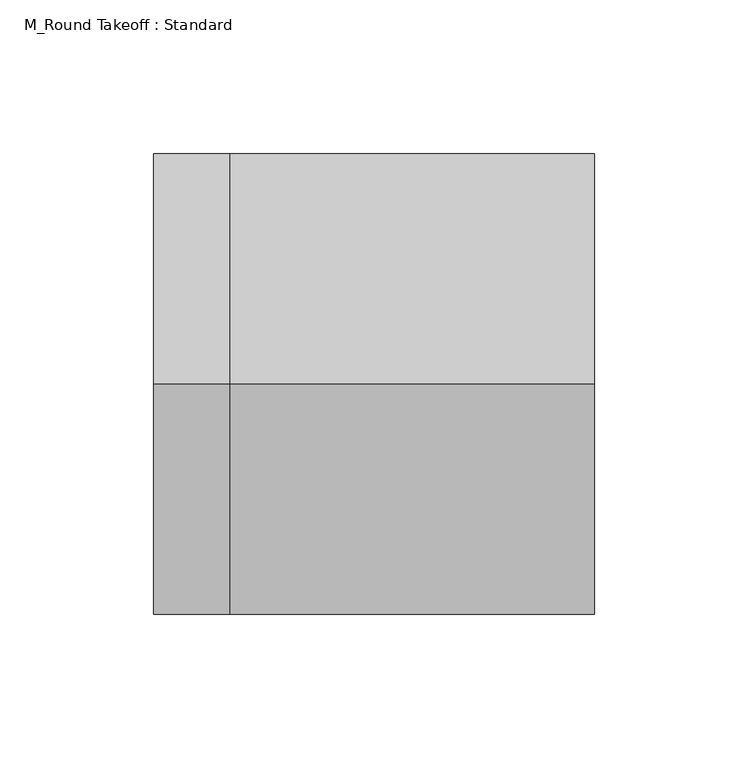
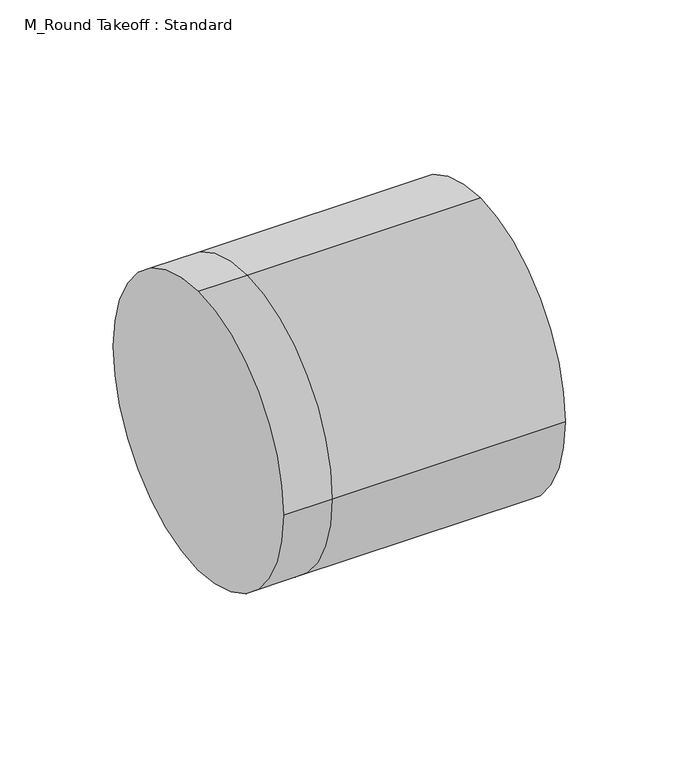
"""IFC4 building model written with IfcOpenShell, lengths in millimetres: duct fitting geometry, M_Round Takeoff : Standard."""

from ifc_helpers import new_model, si_unit, frame, origin, place, context, project, spatial, circle_curve, source, transform, mapped, element, save
from ifc_brep_helpers import plane_surface, cylinder_surface, advanced_brep


def m_round_takeoff_standard_242be8e9(model_context):
    return source(origin(), model_context, "Body", "AdvancedBrep", [
        advanced_brep(
        [(-24.8402143, 0.0, 75.0), (-24.8402143, 75.0, 0.0), (-24.8402143, 0.0, -75.0), (-24.8402143, -75.0, 0.0), (0.0, 0.0, 75.0), (0.0, 75.0, 0.0), (0.0, 0.0, -75.0), (0.0, -75.0, 0.0), (118.7442143, 0.0, 75.0), (118.7442143, -75.0, 0.0), (118.7442143, 0.0, -75.0), (118.7442143, 75.0, 0.0)],
        [
            (0, 1, circle_curve(frame((-24.8402143, 0.0, 0.0), z_axis=(-1.0, 0.0, 0.0), x_axis=(0.0, 1.0, 0.0)), 75.0)),
            (1, 2, circle_curve(frame((-24.8402143, 0.0, 0.0), z_axis=(-1.0, 0.0, 0.0), x_axis=(0.0, 1.0, 0.0)), 75.0)),
            (2, 3, circle_curve(frame((-24.8402143, 0.0, 0.0), z_axis=(-1.0, 0.0, 0.0), x_axis=(0.0, 1.0, 0.0)), 75.0)),
            (3, 0, circle_curve(frame((-24.8402143, 0.0, 0.0), z_axis=(-1.0, 0.0, 0.0), x_axis=(0.0, 1.0, 0.0)), 75.0)),
            (0, 4),
            (4, 5, circle_curve(frame((0.0, 0.0, 0.0), z_axis=(-1.0, 0.0, 0.0), x_axis=(0.0, 1.0, 0.0)), 75.0)),
            (5, 1),
            (5, 6, circle_curve(frame((0.0, 0.0, 0.0), z_axis=(-1.0, 0.0, 0.0), x_axis=(0.0, 1.0, 0.0)), 75.0)),
            (6, 2),
            (6, 7, circle_curve(frame((0.0, 0.0, 0.0), z_axis=(-1.0, 0.0, 0.0), x_axis=(0.0, 1.0, 0.0)), 75.0)),
            (7, 3),
            (7, 4, circle_curve(frame((0.0, 0.0, 0.0), z_axis=(-1.0, 0.0, 0.0), x_axis=(0.0, 1.0, 0.0)), 75.0)),
            (8, 9, circle_curve(frame((118.7442143, 0.0, 0.0), z_axis=(1.0, 0.0, 0.0), x_axis=(0.0, 1.0, 0.0)), 75.0)),
            (9, 10, circle_curve(frame((118.7442143, 0.0, 0.0), z_axis=(1.0, 0.0, 0.0), x_axis=(0.0, 1.0, 0.0)), 75.0)),
            (10, 11, circle_curve(frame((118.7442143, 0.0, 0.0), z_axis=(1.0, 0.0, 0.0), x_axis=(0.0, 1.0, 0.0)), 75.0)),
            (11, 8, circle_curve(frame((118.7442143, 0.0, 0.0), z_axis=(1.0, 0.0, 0.0), x_axis=(0.0, 1.0, 0.0)), 75.0)),
            (11, 5),
            (4, 8),
            (10, 6),
            (9, 7),
        ],
        [
            plane_surface(frame((-24.8402143, 0.0, 0.0), z_axis=(-1.0, 0.0, 0.0), x_axis=(0.0, 0.0, 1.0))),
            cylinder_surface(frame((-24.8402143, 0.0, 0.0), z_axis=(-1.0, 0.0, 0.0), x_axis=(0.0, 1.0, 0.0)), 75.0),
            plane_surface(frame((118.7442143, 0.0, 0.0), z_axis=(1.0, 0.0, 0.0), x_axis=(0.0, 0.0, 1.0))),
            cylinder_surface(frame((0.0, 0.0, 0.0), z_axis=(-1.0, 0.0, 0.0), x_axis=(0.0, 1.0, 0.0)), 75.0),
        ],
        [
            (0, [[1, 2, 3, 4]]),
            (1, [[-1, 5, 6, 7]]),
            (1, [[-2, -7, 8, 9]]),
            (1, [[-3, -9, 10, 11]]),
            (1, [[-4, -11, 12, -5]]),
            (2, [[13, 14, 15, 16]]),
            (3, [[-16, 17, -6, 18]]),
            (3, [[-15, 19, -8, -17]]),
            (3, [[-14, 20, -10, -19]]),
            (3, [[-13, -18, -12, -20]]),
        ],
    ),
        advanced_brep(
        [(118.7442143, 0.0, 75.0), (118.7442143, -75.0, 0.0), (118.7442143, 0.0, -75.0), (118.7442143, 75.0, 0.0), (0.0, 75.0, 0.0), (0.0, 0.0, 75.0), (0.0, 0.0, -75.0), (0.0, -75.0, 0.0), (-24.8402143, 0.0, 75.0), (-24.8402143, 75.0, 0.0), (-24.8402143, 0.0, -75.0), (-24.8402143, -75.0, 0.0)],
        [
            (0, 1, circle_curve(frame((118.7442143, 0.0, 0.0), z_axis=(1.0, 0.0, 0.0), x_axis=(0.0, 1.0, 0.0)), 75.0)),
            (1, 2, circle_curve(frame((118.7442143, 0.0, 0.0), z_axis=(1.0, 0.0, 0.0), x_axis=(0.0, 1.0, 0.0)), 75.0)),
            (2, 3, circle_curve(frame((118.7442143, 0.0, 0.0), z_axis=(1.0, 0.0, 0.0), x_axis=(0.0, 1.0, 0.0)), 75.0)),
            (3, 0, circle_curve(frame((118.7442143, 0.0, 0.0), z_axis=(1.0, 0.0, 0.0), x_axis=(0.0, 1.0, 0.0)), 75.0)),
            (3, 4),
            (4, 5, circle_curve(frame((0.0, 0.0, 0.0), z_axis=(1.0, 0.0, 0.0), x_axis=(0.0, 1.0, 0.0)), 75.0)),
            (5, 0),
            (2, 6),
            (6, 4, circle_curve(frame((0.0, 0.0, 0.0), z_axis=(1.0, 0.0, 0.0), x_axis=(0.0, 1.0, 0.0)), 75.0)),
            (1, 7),
            (7, 6, circle_curve(frame((0.0, 0.0, 0.0), z_axis=(1.0, 0.0, 0.0), x_axis=(0.0, 1.0, 0.0)), 75.0)),
            (5, 7, circle_curve(frame((0.0, 0.0, 0.0), z_axis=(1.0, 0.0, 0.0), x_axis=(0.0, 1.0, 0.0)), 75.0)),
            (8, 9, circle_curve(frame((-24.8402143, 0.0, 0.0), z_axis=(-1.0, 0.0, 0.0), x_axis=(0.0, 1.0, 0.0)), 75.0)),
            (9, 10, circle_curve(frame((-24.8402143, 0.0, 0.0), z_axis=(-1.0, 0.0, 0.0), x_axis=(0.0, 1.0, 0.0)), 75.0)),
            (10, 11, circle_curve(frame((-24.8402143, 0.0, 0.0), z_axis=(-1.0, 0.0, 0.0), x_axis=(0.0, 1.0, 0.0)), 75.0)),
            (11, 8, circle_curve(frame((-24.8402143, 0.0, 0.0), z_axis=(-1.0, 0.0, 0.0), x_axis=(0.0, 1.0, 0.0)), 75.0)),
            (8, 5),
            (4, 9),
            (6, 10),
            (7, 11),
        ],
        [
            plane_surface(frame((118.7442143, 0.0, 0.0), z_axis=(1.0, 0.0, 0.0), x_axis=(0.0, 0.0, 1.0))),
            cylinder_surface(frame((0.0, 0.0, 0.0), z_axis=(-1.0, 0.0, 0.0), x_axis=(0.0, 1.0, 0.0)), 75.0),
            plane_surface(frame((-24.8402143, 0.0, 0.0), z_axis=(-1.0, 0.0, 0.0), x_axis=(0.0, 0.0, 1.0))),
            cylinder_surface(frame((-24.8402143, 0.0, 0.0), z_axis=(-1.0, 0.0, 0.0), x_axis=(0.0, 1.0, 0.0)), 75.0),
        ],
        [
            (0, [[1, 2, 3, 4]]),
            (1, [[-4, 5, 6, 7]]),
            (1, [[-3, 8, 9, -5]]),
            (1, [[-2, 10, 11, -8]]),
            (1, [[-1, -7, 12, -10]]),
            (2, [[13, 14, 15, 16]]),
            (3, [[-13, 17, -6, 18]]),
            (3, [[-14, -18, -9, 19]]),
            (3, [[-15, -19, -11, 20]]),
            (3, [[-16, -20, -12, -17]]),
        ],
    ),
        advanced_brep(
        [(-24.8402143, 0.0, 75.0), (-24.8402143, 75.0, 0.0), (-24.8402143, 0.0, -75.0), (-24.8402143, -75.0, 0.0), (0.0, 0.0, 75.0), (0.0, 75.0, 0.0), (0.0, 0.0, -75.0), (0.0, -75.0, 0.0), (118.7442143, 0.0, 75.0), (118.7442143, -75.0, 0.0), (118.7442143, 0.0, -75.0), (118.7442143, 75.0, 0.0)],
        [
            (0, 1, circle_curve(frame((-24.8402143, 0.0, 0.0), z_axis=(-1.0, 0.0, 0.0), x_axis=(0.0, 1.0, 0.0)), 75.0)),
            (1, 2, circle_curve(frame((-24.8402143, 0.0, 0.0), z_axis=(-1.0, 0.0, 0.0), x_axis=(0.0, 1.0, 0.0)), 75.0)),
            (2, 3, circle_curve(frame((-24.8402143, 0.0, 0.0), z_axis=(-1.0, 0.0, 0.0), x_axis=(0.0, 1.0, 0.0)), 75.0)),
            (3, 0, circle_curve(frame((-24.8402143, 0.0, 0.0), z_axis=(-1.0, 0.0, 0.0), x_axis=(0.0, 1.0, 0.0)), 75.0)),
            (0, 4),
            (4, 5, circle_curve(frame((0.0, 0.0, 0.0), z_axis=(-1.0, 0.0, 0.0), x_axis=(0.0, 1.0, 0.0)), 75.0)),
            (5, 1),
            (5, 6, circle_curve(frame((0.0, 0.0, 0.0), z_axis=(-1.0, 0.0, 0.0), x_axis=(0.0, 1.0, 0.0)), 75.0)),
            (6, 2),
            (6, 7, circle_curve(frame((0.0, 0.0, 0.0), z_axis=(-1.0, 0.0, 0.0), x_axis=(0.0, 1.0, 0.0)), 75.0)),
            (7, 3),
            (7, 4, circle_curve(frame((0.0, 0.0, 0.0), z_axis=(-1.0, 0.0, 0.0), x_axis=(0.0, 1.0, 0.0)), 75.0)),
            (8, 9, circle_curve(frame((118.7442143, 0.0, 0.0), z_axis=(1.0, 0.0, 0.0), x_axis=(0.0, 1.0, 0.0)), 75.0)),
            (9, 10, circle_curve(frame((118.7442143, 0.0, 0.0), z_axis=(1.0, 0.0, 0.0), x_axis=(0.0, 1.0, 0.0)), 75.0)),
            (10, 11, circle_curve(frame((118.7442143, 0.0, 0.0), z_axis=(1.0, 0.0, 0.0), x_axis=(0.0, 1.0, 0.0)), 75.0)),
            (11, 8, circle_curve(frame((118.7442143, 0.0, 0.0), z_axis=(1.0, 0.0, 0.0), x_axis=(0.0, 1.0, 0.0)), 75.0)),
            (11, 5),
            (4, 8),
            (10, 6),
            (9, 7),
        ],
        [
            plane_surface(frame((-24.8402143, 0.0, 0.0), z_axis=(-1.0, 0.0, 0.0), x_axis=(0.0, 0.0, 1.0))),
            cylinder_surface(frame((-24.8402143, 0.0, 0.0), z_axis=(-1.0, 0.0, 0.0), x_axis=(0.0, 1.0, 0.0)), 75.0),
            plane_surface(frame((118.7442143, 0.0, 0.0), z_axis=(1.0, 0.0, 0.0), x_axis=(0.0, 0.0, 1.0))),
            cylinder_surface(frame((0.0, 0.0, 0.0), z_axis=(-1.0, 0.0, 0.0), x_axis=(0.0, 1.0, 0.0)), 75.0),
        ],
        [
            (0, [[1, 2, 3, 4]]),
            (1, [[-1, 5, 6, 7]]),
            (1, [[-2, -7, 8, 9]]),
            (1, [[-3, -9, 10, 11]]),
            (1, [[-4, -11, 12, -5]]),
            (2, [[13, 14, 15, 16]]),
            (3, [[-16, 17, -6, 18]]),
            (3, [[-15, 19, -8, -17]]),
            (3, [[-14, 20, -10, -19]]),
            (3, [[-13, -18, -12, -20]]),
        ],
    ),
    ])


if __name__ == "__main__":
    model = new_model("IFC4")
    model_context = context("Model", 3, world=origin())
    ifc_project = project(units=[si_unit("LENGTHUNIT", "METRE", prefix="MILLI")], contexts=[model_context])
    site = spatial("IfcSite", under=ifc_project)
    building = spatial("IfcBuilding", under=site)
    placement = place(None, origin())
    m_round_takeoff_standard_shape = m_round_takeoff_standard_242be8e9(model_context)
    element("IfcDuctFitting", 1, ObjectType="M_Round Takeoff : Standard", at=placement, inside=building, context=model_context, shape_type="MappedRepresentation", body=[
        mapped(m_round_takeoff_standard_shape, transform((0.0, 0.0, 0.0), x_axis=(1.0, 0.0, 0.0), y_axis=(0.0, 1.0, 0.0), z_axis=(0.0, 0.0, 1.0))),
    ])
    save(model, "model.ifc")
